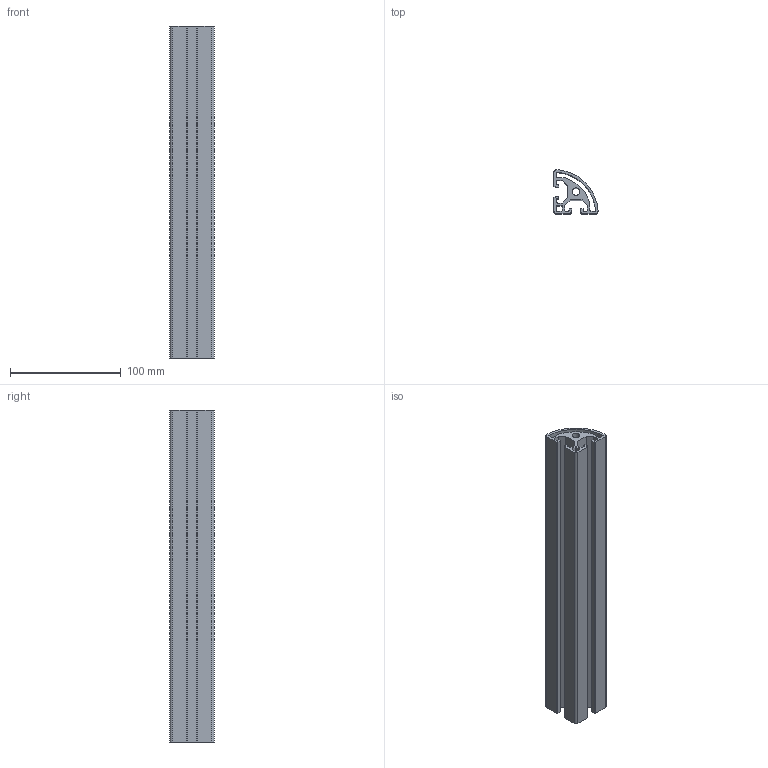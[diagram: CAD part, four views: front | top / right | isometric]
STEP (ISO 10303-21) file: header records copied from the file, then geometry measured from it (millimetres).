
FILE_DESCRIPTION (( 'STEP AP203' ), '1' );
FILE_NAME ('21-CE-4040R-8.STEP', '2015-07-07T03:11:58', ( '' ), ( '' ), 'SwSTEP 2.0', 'SolidWorks 2013', '' );
FILE_SCHEMA (( 'CONFIG_CONTROL_DESIGN' ));
Length unit declared in the file: millimetre
Products named in the file (1): 21-CE-4040R-8
Bounding box: 39.91 x 39.91 x 300 mm (x, y, z)
Volume: 175105.4 mm3; surface area: 119869.7 mm2
Topology: 1 solids, 1 shells, 72 faces, 210 edges, 140 vertices
Faces by surface type: plane 48, cylinder 24
Entity records: 2471 total; most frequent: CARTESIAN_POINT 423, ORIENTED_EDGE 420, DIRECTION 404, EDGE_CURVE 210, LINE 162, VECTOR 162, VERTEX_POINT 140, AXIS2_PLACEMENT_3D 121
